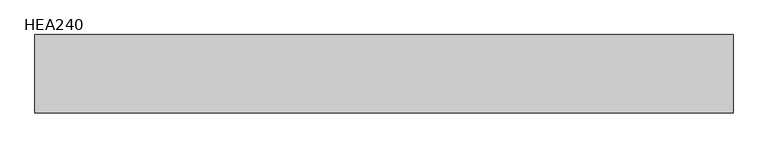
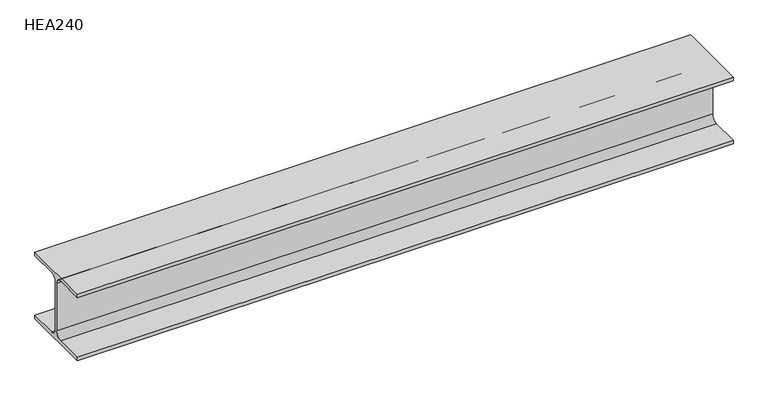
"""IFC4 building model written with IfcOpenShell, lengths in millimetres: beam geometry, HE-A : HEA240."""

from ifc_helpers import new_model, si_unit, point, frame, frame_2d, origin, place, context, project, spatial, polyline, circle_curve, trimmed, segment, composite_curve, outline, extrude, source, transform, mapped, element, save


def hea240_ab533a1a(model_context):
    return source(origin(), model_context, "Body", "SweptSolid", [
        extrude(outline(composite_curve([segment(polyline([(120.0, -103.0), (120.0, -115.0), (-120.0, -115.0), (-120.0, -103.0), (-24.75, -103.0)]), True, "CONTINUOUS"), segment(trimmed(circle_curve(frame_2d((-24.75, -82.0)), 21.0), [point((-24.75, -103.0))], [point((-3.75, -82.0))], True, "CARTESIAN"), True, "CONTINUOUS"), segment(polyline([(-3.75, -82.0), (-3.75, 82.0)]), True, "CONTINUOUS"), segment(trimmed(circle_curve(frame_2d((-24.75, 82.0)), 21.0), [point((-3.75, 82.0))], [point((-24.75, 103.0))], True, "CARTESIAN"), True, "CONTINUOUS"), segment(polyline([(-24.75, 103.0), (-120.0, 103.0), (-120.0, 115.0), (120.0, 115.0), (120.0, 103.0), (24.75, 103.0)]), True, "CONTINUOUS"), segment(trimmed(circle_curve(frame_2d((24.75, 82.0)), 21.0), [point((24.75, 103.0))], [point((3.75, 82.0))], True, "CARTESIAN"), True, "CONTINUOUS"), segment(polyline([(3.75, 82.0), (3.75, -82.0)]), True, "CONTINUOUS"), segment(trimmed(circle_curve(frame_2d((24.75, -82.0)), 21.0), [point((3.75, -82.0))], [point((24.75, -103.0))], True, "CARTESIAN"), True, "CONTINUOUS"), segment(polyline([(24.75, -103.0), (120.0, -103.0)]), True, "CONTINUOUS")], self_intersect=False)), frame((-1072.3, 0.0, 0.0), z_axis=(1.0, 0.0, 0.0), x_axis=(0.0, 1.0, 0.0)), (0.0, 0.0, 1.0), 2139.9),
    ])


if __name__ == "__main__":
    model = new_model("IFC4")
    model_context = context("Model", 3, world=origin())
    ifc_project = project(units=[si_unit("LENGTHUNIT", "METRE", prefix="MILLI")], contexts=[model_context])
    site = spatial("IfcSite", under=ifc_project)
    building = spatial("IfcBuilding", under=site)
    placement = place(None, origin())
    hea240_shape = hea240_ab533a1a(model_context)
    element("IfcBeam", 1, ObjectType="HE-A : HEA240", at=placement, inside=building, context=model_context, shape_type="MappedRepresentation", body=[
        mapped(hea240_shape, transform((0.0, 0.0, 0.0), x_axis=(1.0, 0.0, 0.0), y_axis=(0.0, 1.0, 0.0), z_axis=(0.0, 0.0, 1.0))),
    ])
    save(model, "model.ifc")
